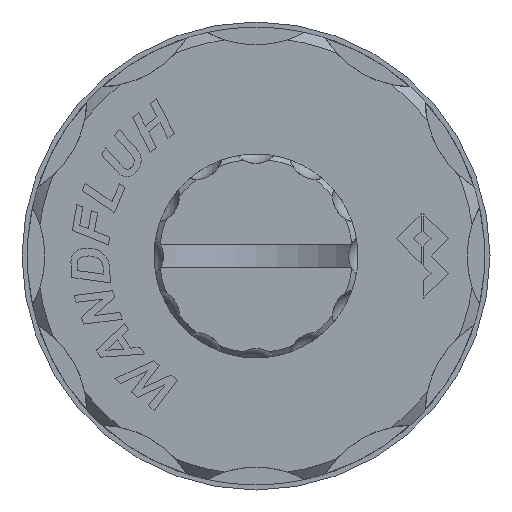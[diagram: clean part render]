
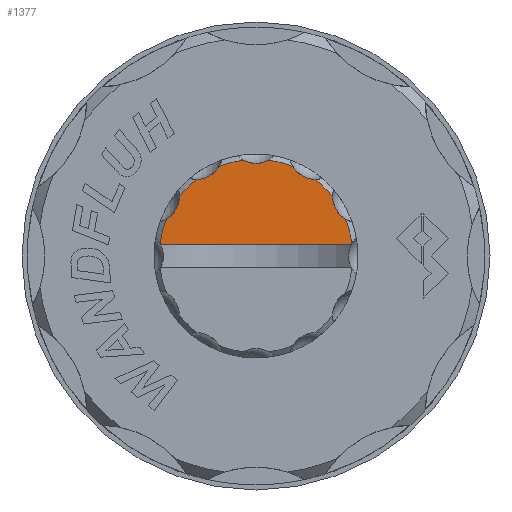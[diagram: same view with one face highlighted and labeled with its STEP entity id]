
A CAD part, left-side view. The second image highlights one B-rep face of the part: STEP entity #1377.
In plain terms, the highlighted planar face has unit normal (-1, 0, 0).
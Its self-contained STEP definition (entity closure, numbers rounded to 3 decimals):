
#83 = AXIS2_PLACEMENT_3D ( 'NONE', #4632, #4624, #4620 ) ;
#207 = VECTOR ( 'NONE', #4465, 1000. ) ;
#233 = CARTESIAN_POINT ( 'NONE',  ( -71.4, 8.599, 3.543 ) ) ;
#260 = ORIENTED_EDGE ( 'NONE', *, *, #4149, .T. ) ;
#973 = AXIS2_PLACEMENT_3D ( 'NONE', #5264, #5228, #5205 ) ;
#1099 = ORIENTED_EDGE ( 'NONE', *, *, #4017, .F. ) ;
#1134 = CIRCLE ( 'NONE', #13075, 2.543 ) ;
#1261 = ORIENTED_EDGE ( 'NONE', *, *, #4119, .T. ) ;
#1312 = ORIENTED_EDGE ( 'NONE', *, *, #4134, .T. ) ;
#1317 = CARTESIAN_POINT ( 'NONE',  ( -71.4, -9.165, 1.131 ) ) ;
#1367 = ORIENTED_EDGE ( 'NONE', *, *, #4170, .T. ) ;
#1377 = ADVANCED_FACE ( 'NONE', ( #2484 ), #9002, .F. ) ;
#1404 = ORIENTED_EDGE ( 'NONE', *, *, #4209, .T. ) ;
#1428 = ORIENTED_EDGE ( 'NONE', *, *, #4231, .T. ) ;
#1557 = AXIS2_PLACEMENT_3D ( 'NONE', #5006, #4994, #4977 ) ;
#1607 = VERTEX_POINT ( 'NONE', #11066 ) ;
#1858 = CIRCLE ( 'NONE', #12030, 9.3 ) ;
#1956 = VERTEX_POINT ( 'NONE', #2268 ) ;
#2268 = CARTESIAN_POINT ( 'NONE',  ( -71.4, 1.231, 9.218 ) ) ;
#2484 = FACE_OUTER_BOUND ( 'NONE', #13072, .T. ) ;
#2570 = CARTESIAN_POINT ( 'NONE',  ( -71.4, -5.676, 7.367 ) ) ;
#2715 = AXIS2_PLACEMENT_3D ( 'NONE', #4824, #4819, #4807 ) ;
#2755 = CARTESIAN_POINT ( 'NONE',  ( -71.4, 7.367, 5.676 ) ) ;
#3081 = ORIENTED_EDGE ( 'NONE', *, *, #4041, .F. ) ;
#3597 = CIRCLE ( 'NONE', #6969, 2.543 ) ;
#3652 = AXIS2_PLACEMENT_3D ( 'NONE', #5112, #5101, #5098 ) ;
#3776 = ORIENTED_EDGE ( 'NONE', *, *, #4036, .T. ) ;
#4017 = EDGE_CURVE ( 'NONE', #10940, #8487, #6697, .T. ) ;
#4036 = EDGE_CURVE ( 'NONE', #10940, #8992, #4814, .T. ) ;
#4041 = EDGE_CURVE ( 'NONE', #11827, #8992, #4340, .T. ) ;
#4056 = EDGE_CURVE ( 'NONE', #11827, #9531, #10175, .T. ) ;
#4073 = EDGE_CURVE ( 'NONE', #9531, #11289, #6598, .T. ) ;
#4096 = EDGE_CURVE ( 'NONE', #11289, #9143, #10030, .T. ) ;
#4100 = EDGE_CURVE ( 'NONE', #9143, #8372, #7091, .T. ) ;
#4114 = EDGE_CURVE ( 'NONE', #8372, #12457, #12752, .T. ) ;
#4119 = EDGE_CURVE ( 'NONE', #12457, #1956, #10777, .T. ) ;
#4134 = EDGE_CURVE ( 'NONE', #1956, #1607, #1858, .T. ) ;
#4137 = EDGE_CURVE ( 'NONE', #1607, #9395, #1134, .T. ) ;
#4149 = EDGE_CURVE ( 'NONE', #9395, #9439, #5826, .T. ) ;
#4170 = EDGE_CURVE ( 'NONE', #9439, #7961, #9739, .T. ) ;
#4172 = AXIS2_PLACEMENT_3D ( 'NONE', #13018, #7613, #8536 ) ;
#4191 = EDGE_CURVE ( 'NONE', #7961, #10926, #9111, .T. ) ;
#4209 = EDGE_CURVE ( 'NONE', #10926, #9619, #3597, .T. ) ;
#4231 = EDGE_CURVE ( 'NONE', #9619, #8487, #8789, .T. ) ;
#4340 = CIRCLE ( 'NONE', #973, 2.543 ) ;
#4391 = DIRECTION ( 'NONE',  ( 0., -1., 0. ) ) ;
#4419 = DIRECTION ( 'NONE',  ( 1., 0., 0. ) ) ;
#4435 = CARTESIAN_POINT ( 'NONE',  ( -71.4, 11.443, 0. ) ) ;
#4465 = DIRECTION ( 'NONE',  ( 0., 0., 1. ) ) ;
#4481 = DIRECTION ( 'NONE',  ( 0., -1., 0. ) ) ;
#4483 = DIRECTION ( 'NONE',  ( -1., 0., 0. ) ) ;
#4511 = CARTESIAN_POINT ( 'NONE',  ( -71.4, 0., 0. ) ) ;
#4528 = CARTESIAN_POINT ( 'NONE',  ( -71.4, 9.165, 1.15 ) ) ;
#4544 = DIRECTION ( 'NONE',  ( 0., -1., 0. ) ) ;
#4566 = DIRECTION ( 'NONE',  ( 1., 0., 0. ) ) ;
#4582 = CARTESIAN_POINT ( 'NONE',  ( -71.4, 9.91, 5.721 ) ) ;
#4620 = DIRECTION ( 'NONE',  ( 0., -1., 0. ) ) ;
#4624 = DIRECTION ( 'NONE',  ( -1., 0., 0. ) ) ;
#4632 = CARTESIAN_POINT ( 'NONE',  ( -71.4, 0., 0. ) ) ;
#4684 = DIRECTION ( 'NONE',  ( 0., -1., 0. ) ) ;
#4698 = DIRECTION ( 'NONE',  ( 1., 0., 0. ) ) ;
#4703 = CARTESIAN_POINT ( 'NONE',  ( -71.4, 5.721, 9.91 ) ) ;
#4728 = DIRECTION ( 'NONE',  ( 0., -1., 0. ) ) ;
#4747 = DIRECTION ( 'NONE',  ( -1., 0., 0. ) ) ;
#4749 = CARTESIAN_POINT ( 'NONE',  ( -71.4, 0., 0. ) ) ;
#4754 = CARTESIAN_POINT ( 'NONE',  ( -71.4, -1.231, 9.218 ) ) ;
#4807 = DIRECTION ( 'NONE',  ( 0., -1., 0. ) ) ;
#4814 = LINE ( 'NONE', #5348, #11765 ) ;
#4819 = DIRECTION ( 'NONE',  ( 1., 0., 0. ) ) ;
#4824 = CARTESIAN_POINT ( 'NONE',  ( -71.4, 0., 11.443 ) ) ;
#4863 = DIRECTION ( 'NONE',  ( 0., -1., 0. ) ) ;
#4865 = DIRECTION ( 'NONE',  ( -1., 0., 0. ) ) ;
#4881 = CARTESIAN_POINT ( 'NONE',  ( -71.4, 0., 0. ) ) ;
#4906 = ORIENTED_EDGE ( 'NONE', *, *, #4191, .T. ) ;
#4924 = DIRECTION ( 'NONE',  ( 0., -1., 0. ) ) ;
#4934 = DIRECTION ( 'NONE',  ( 1., 0., 0. ) ) ;
#4954 = CARTESIAN_POINT ( 'NONE',  ( -71.4, -5.721, 9.91 ) ) ;
#4977 = DIRECTION ( 'NONE',  ( 0., -1., 0. ) ) ;
#4994 = DIRECTION ( 'NONE',  ( -1., 0., 0. ) ) ;
#5006 = CARTESIAN_POINT ( 'NONE',  ( -71.4, 0., 0. ) ) ;
#5038 = DIRECTION ( 'NONE',  ( 0., -1., 0. ) ) ;
#5058 = DIRECTION ( 'NONE',  ( 1., 0., 0. ) ) ;
#5060 = CARTESIAN_POINT ( 'NONE',  ( -71.4, -9.91, 5.721 ) ) ;
#5098 = DIRECTION ( 'NONE',  ( 0., -1., 0. ) ) ;
#5101 = DIRECTION ( 'NONE',  ( -1., 0., 0. ) ) ;
#5112 = CARTESIAN_POINT ( 'NONE',  ( -71.4, 0., 0. ) ) ;
#5205 = DIRECTION ( 'NONE',  ( 0., 1., 0. ) ) ;
#5228 = DIRECTION ( 'NONE',  ( -1., 0., 0. ) ) ;
#5264 = CARTESIAN_POINT ( 'NONE',  ( -71.4, -11.443, 0. ) ) ;
#5348 = CARTESIAN_POINT ( 'NONE',  ( -71.4, -9.165, 1.15 ) ) ;
#5377 = DIRECTION ( 'NONE',  ( 0., 1., 0. ) ) ;
#5396 = DIRECTION ( 'NONE',  ( 0., 0., -1. ) ) ;
#5411 = CARTESIAN_POINT ( 'NONE',  ( -71.4, 9.8, 1.15 ) ) ;
#5826 = CIRCLE ( 'NONE', #83, 9.3 ) ;
#6056 = ORIENTED_EDGE ( 'NONE', *, *, #4056, .T. ) ;
#6088 = ORIENTED_EDGE ( 'NONE', *, *, #4137, .T. ) ;
#6441 = ORIENTED_EDGE ( 'NONE', *, *, #4114, .T. ) ;
#6598 = CIRCLE ( 'NONE', #8939, 2.543 ) ;
#6697 = LINE ( 'NONE', #5411, #12075 ) ;
#6949 = AXIS2_PLACEMENT_3D ( 'NONE', #4511, #4483, #4481 ) ;
#6969 = AXIS2_PLACEMENT_3D ( 'NONE', #4435, #4419, #4391 ) ;
#7091 = CIRCLE ( 'NONE', #11371, 2.543 ) ;
#7301 = CARTESIAN_POINT ( 'NONE',  ( -71.4, -7.367, 5.676 ) ) ;
#7581 = CARTESIAN_POINT ( 'NONE',  ( -71.4, -9.218, 1.231 ) ) ;
#7613 = DIRECTION ( 'NONE',  ( 1., 0., 0. ) ) ;
#7674 = ORIENTED_EDGE ( 'NONE', *, *, #4073, .T. ) ;
#7961 = VERTEX_POINT ( 'NONE', #233 ) ;
#8372 = VERTEX_POINT ( 'NONE', #12509 ) ;
#8464 = CARTESIAN_POINT ( 'NONE',  ( -71.4, 5.676, 7.367 ) ) ;
#8487 = VERTEX_POINT ( 'NONE', #12419 ) ;
#8536 = DIRECTION ( 'NONE',  ( 0., -1., 0. ) ) ;
#8789 = LINE ( 'NONE', #4528, #207 ) ;
#8863 = AXIS2_PLACEMENT_3D ( 'NONE', #4582, #4566, #4544 ) ;
#8939 = AXIS2_PLACEMENT_3D ( 'NONE', #5060, #5058, #5038 ) ;
#8992 = VERTEX_POINT ( 'NONE', #1317 ) ;
#9002 = PLANE ( 'NONE',  #4172 ) ;
#9111 = CIRCLE ( 'NONE', #6949, 9.3 ) ;
#9143 = VERTEX_POINT ( 'NONE', #2570 ) ;
#9395 = VERTEX_POINT ( 'NONE', #8464 ) ;
#9439 = VERTEX_POINT ( 'NONE', #2755 ) ;
#9531 = VERTEX_POINT ( 'NONE', #9940 ) ;
#9619 = VERTEX_POINT ( 'NONE', #11592 ) ;
#9739 = CIRCLE ( 'NONE', #8863, 2.543 ) ;
#9925 = ORIENTED_EDGE ( 'NONE', *, *, #4100, .T. ) ;
#9940 = CARTESIAN_POINT ( 'NONE',  ( -71.4, -8.599, 3.543 ) ) ;
#10030 = CIRCLE ( 'NONE', #1557, 9.3 ) ;
#10175 = CIRCLE ( 'NONE', #3652, 9.3 ) ;
#10777 = CIRCLE ( 'NONE', #2715, 2.543 ) ;
#10803 = AXIS2_PLACEMENT_3D ( 'NONE', #4881, #4865, #4863 ) ;
#10926 = VERTEX_POINT ( 'NONE', #12020 ) ;
#10940 = VERTEX_POINT ( 'NONE', #12873 ) ;
#11066 = CARTESIAN_POINT ( 'NONE',  ( -71.4, 3.543, 8.599 ) ) ;
#11289 = VERTEX_POINT ( 'NONE', #7301 ) ;
#11371 = AXIS2_PLACEMENT_3D ( 'NONE', #4954, #4934, #4924 ) ;
#11592 = CARTESIAN_POINT ( 'NONE',  ( -71.4, 9.165, 1.131 ) ) ;
#11765 = VECTOR ( 'NONE', #5396, 1000. ) ;
#11827 = VERTEX_POINT ( 'NONE', #7581 ) ;
#12020 = CARTESIAN_POINT ( 'NONE',  ( -71.4, 9.218, 1.231 ) ) ;
#12021 = ORIENTED_EDGE ( 'NONE', *, *, #4096, .T. ) ;
#12030 = AXIS2_PLACEMENT_3D ( 'NONE', #4749, #4747, #4728 ) ;
#12075 = VECTOR ( 'NONE', #5377, 1000. ) ;
#12419 = CARTESIAN_POINT ( 'NONE',  ( -71.4, 9.165, 1.15 ) ) ;
#12457 = VERTEX_POINT ( 'NONE', #4754 ) ;
#12509 = CARTESIAN_POINT ( 'NONE',  ( -71.4, -3.543, 8.599 ) ) ;
#12752 = CIRCLE ( 'NONE', #10803, 9.3 ) ;
#12873 = CARTESIAN_POINT ( 'NONE',  ( -71.4, -9.165, 1.15 ) ) ;
#13018 = CARTESIAN_POINT ( 'NONE',  ( -71.4, 9.8, 0. ) ) ;
#13072 = EDGE_LOOP ( 'NONE', ( #1099, #3776, #3081, #6056, #7674, #12021, #9925, #6441, #1261, #1312, #6088, #260, #1367, #4906, #1404, #1428 ) ) ;
#13075 = AXIS2_PLACEMENT_3D ( 'NONE', #4703, #4698, #4684 ) ;
